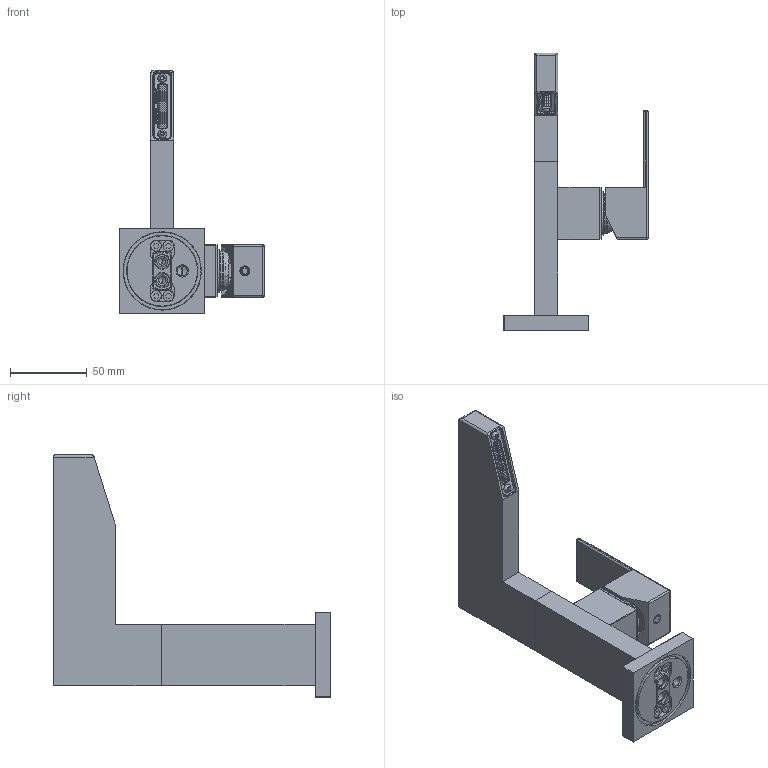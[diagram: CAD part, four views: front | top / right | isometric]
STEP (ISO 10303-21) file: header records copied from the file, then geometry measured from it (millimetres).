
FILE_DESCRIPTION (( 'STEP AP203' ), '1' );
FILE_NAME ('H5T14.STEP', '2023-10-17T12:54:07', ( '' ), ( '' ), 'SwSTEP 2.0', 'SolidWorks 2021', '' );
FILE_SCHEMA (( 'CONFIG_CONTROL_DESIGN' ));
Length unit declared in the file: millimetre
Products named in the file (24): C24.0103.00.0; C11.14.0009; C24.0101.00.0; EU0045_00; C10.00.0020; OR7.65x1.78; TAPPHITO01; C47.00.0023.01; C11.10.0003; C13.00.0017; C25.1405.00.0; SPINA ELASTICA Ø3x10; C24.0120.00.1; C24.0117.00.0; OR 9 X 2; C24.0109.00.0; AS475_00; GRANO M5x6; C24.0080.00.1; H5T14; C24.0119.00.2; EU0205_0; C11.10.0014; C24.1401.00.0
Assembly tree (29 placements, depth 3):
  OR7.65x1.78
  TAPPHITO01
  OR 9 X 2
  H5T14
    EU0045_00
      C24.0117.00.0
      C24.0101.00.0
      C24.0103.00.0
      C11.10.0014  x8
      C24.0109.00.0
      C24.0120.00.1
      C24.0119.00.2
      C24.0080.00.1
      C47.00.0023.01  x2
      C10.00.0020
      C11.14.0009
    AS475_00
      C24.1401.00.0
      C25.1405.00.0
      C13.00.0017
      C11.10.0003  x2
    GRANO M5x6
    SPINA ELASTICA Ø3x10  x2
  EU0205_0
Bounding box: 93.7 x 180 x 157.5 mm (x, y, z)
Volume: 232308.5 mm3; surface area: 98436 mm2
Topology: 28 solids, 28 shells, 1887 faces, 5095 edges, 3237 vertices
Faces by surface type: plane 791, cylinder 720, cone 168, torus 130, bspline 52, sphere 26
Entity records: 59757 total; most frequent: CARTESIAN_POINT 12478, DIRECTION 9314, ORIENTED_EDGE 9250, EDGE_CURVE 4625, AXIS2_PLACEMENT_3D 3342, VERTEX_POINT 2981, VECTOR 2630, LINE 2630
